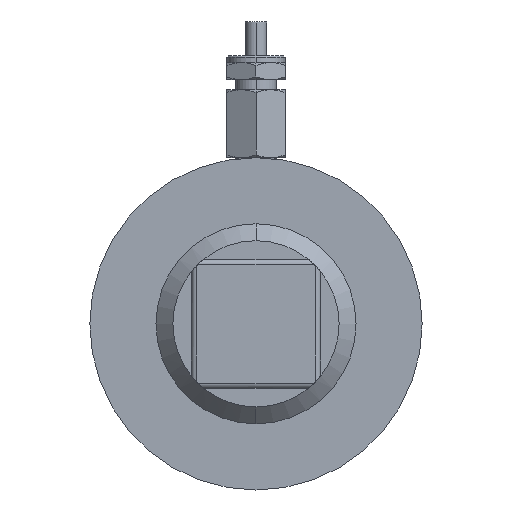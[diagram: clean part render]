
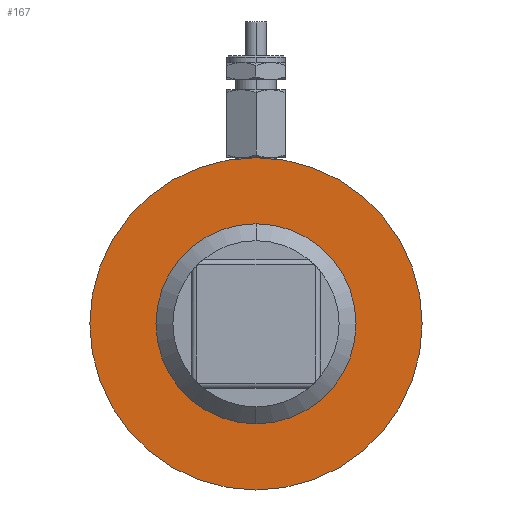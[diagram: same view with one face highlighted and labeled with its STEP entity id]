
A CAD part, left-side view. The second image highlights one B-rep face of the part: STEP entity #167.
In plain terms, the highlighted planar face has unit normal (-1, 0, 0).
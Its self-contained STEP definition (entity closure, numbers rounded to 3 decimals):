
#167=ADVANCED_FACE('',(#362,#363),#364,.T.);
#362=FACE_BOUND('',#562,.T.);
#363=FACE_OUTER_BOUND('',#563,.T.);
#364=PLANE('',#564);
#562=EDGE_LOOP('',(#1253,#1254));
#563=EDGE_LOOP('',(#1255,#1256));
#564=AXIS2_PLACEMENT_3D('',#1257,#1258,#1259);
#1253=ORIENTED_EDGE('',*,*,#1313,.F.);
#1254=ORIENTED_EDGE('',*,*,#1494,.F.);
#1255=ORIENTED_EDGE('',*,*,#1300,.T.);
#1256=ORIENTED_EDGE('',*,*,#1501,.T.);
#1257=CARTESIAN_POINT('',(26.5,0.,-19.625));
#1258=DIRECTION('',(-1.0,0.,0.));
#1259=DIRECTION('',(0.,0.0,-1.0));
#1300=EDGE_CURVE('',#1505,#1519,#1521,.T.);
#1313=EDGE_CURVE('',#1541,#1544,#1545,.T.);
#1494=EDGE_CURVE('',#1544,#1541,#1829,.T.);
#1501=EDGE_CURVE('',#1519,#1505,#1836,.T.);
#1505=VERTEX_POINT('',#1840);
#1519=VERTEX_POINT('',#1892);
#1521=CIRCLE('',#1895,24.5);
#1541=VERTEX_POINT('',#1939);
#1544=VERTEX_POINT('',#1943);
#1545=CIRCLE('',#1944,14.75);
#1829=CIRCLE('',#2923,14.75);
#1836=CIRCLE('',#2930,24.5);
#1840=CARTESIAN_POINT('',(26.5,0.,-24.5));
#1892=CARTESIAN_POINT('',(26.5,0.,24.5));
#1895=AXIS2_PLACEMENT_3D('',#2977,#2978,#2979);
#1939=CARTESIAN_POINT('',(26.5,0.,-14.75));
#1943=CARTESIAN_POINT('',(26.5,0.,14.75));
#1944=AXIS2_PLACEMENT_3D('',#3004,#3005,#3006);
#2923=AXIS2_PLACEMENT_3D('',#3255,#3256,#3257);
#2930=AXIS2_PLACEMENT_3D('',#3276,#3277,#3278);
#2977=CARTESIAN_POINT('',(26.5,0.,0.));
#2978=DIRECTION('',(-1.0,0.,0.));
#2979=DIRECTION('',(0.,0.0,-1.0));
#3004=CARTESIAN_POINT('',(26.5,0.,0.));
#3005=DIRECTION('',(-1.0,0.,0.));
#3006=DIRECTION('',(0.,0.0,-1.0));
#3255=CARTESIAN_POINT('',(26.5,0.,0.));
#3256=DIRECTION('',(-1.0,0.,0.));
#3257=DIRECTION('',(0.,0.0,-1.0));
#3276=CARTESIAN_POINT('',(26.5,0.,0.));
#3277=DIRECTION('',(-1.0,0.,0.));
#3278=DIRECTION('',(0.,0.0,-1.0));
